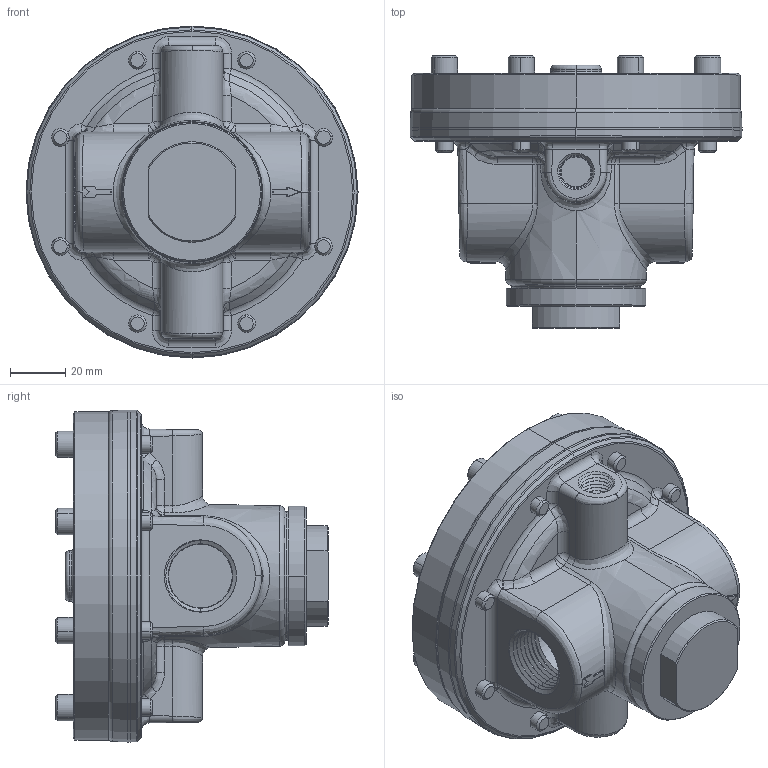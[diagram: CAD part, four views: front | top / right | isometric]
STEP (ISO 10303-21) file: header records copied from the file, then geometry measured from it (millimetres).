
FILE_DESCRIPTION (( 'STEP AP203' ), '1' );
FILE_NAME ('4GDR-750B-PO.STEP', '2013-03-14T12:15:28', ( '' ), ( '' ), 'SwSTEP 2.0', 'SolidWorks 2011', '' );
FILE_SCHEMA (( 'CONFIG_CONTROL_DESIGN' ));
Length unit declared in the file: inch
Products named in the file (2): 4GDR-750B-PO; Part3^4GDR-750B-PO_CM
Assembly tree (1 placements, depth 2):
  4GDR-750B-PO
    Part3^4GDR-750B-PO_CM
Bounding box: 120.14 x 98.67 x 120.14 mm (x, y, z)
Volume: 484429.6 mm3; surface area: 55899.5 mm2
Topology: 1 solids, 1 shells, 743 faces, 1615 edges, 875 vertices
Faces by surface type: cone 342, plane 160, cylinder 117, bspline 65, torus 32, sphere 27
Entity records: 23555 total; most frequent: CARTESIAN_POINT 7733, DIRECTION 3433, ORIENTED_EDGE 3164, EDGE_CURVE 1582, AXIS2_PLACEMENT_3D 1370, VERTEX_POINT 875, EDGE_LOOP 777, ADVANCED_FACE 743
